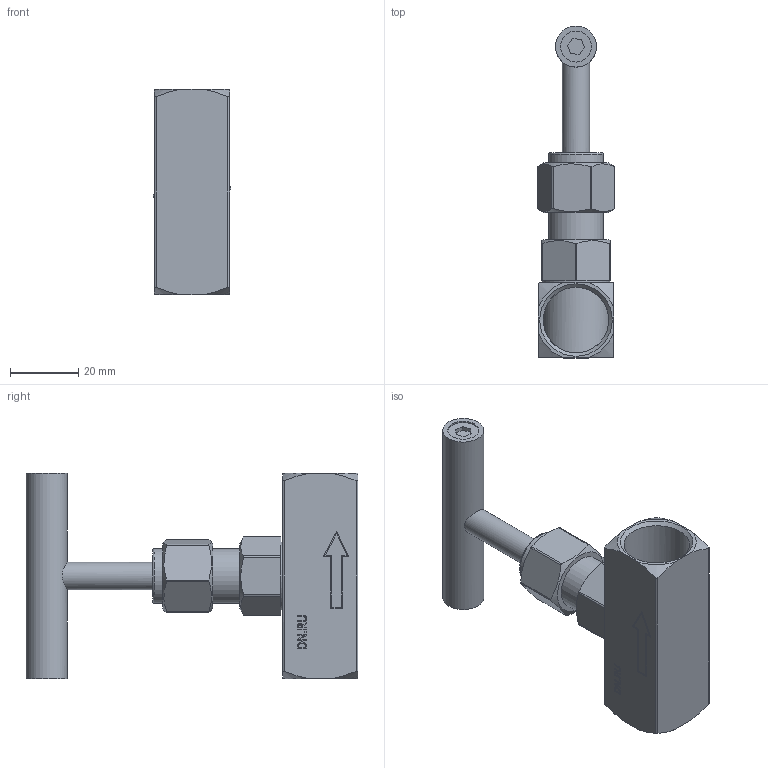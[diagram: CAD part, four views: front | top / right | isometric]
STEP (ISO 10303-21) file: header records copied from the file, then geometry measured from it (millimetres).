
FILE_DESCRIPTION(('STEP AP214'), '1');
FILE_NAME('VN3232M-T-Ht 孰囡囗 桡铍囹 DN.ru 捏15 畜400', '', ('UNSPECIFIED'), ('UNSPECIFIED'), 'C3D Converter', 'C3D Toolkit', '');
FILE_SCHEMA(('AUTOMOTIVE_DESIGN { 1 0 10303 214 3 1 1}'));
Length unit declared in the file: millimetre
Products named in the file (1): VN3232M-T-Ht
Bounding box: 22.77 x 97 x 60 mm (x, y, z)
Volume: 35964.3 mm3; surface area: 14713 mm2
Topology: 1 solids, 1 shells, 170 faces, 436 edges, 289 vertices
Faces by surface type: plane 106, cylinder 27, bspline 23, cone 13, torus 1
Full cylindrical faces by diameter (mm): 8 x1, 9.066 x2, 12 x1, 16 x2, 19.17 x2, 20 x1
Entity records: 12277 total; most frequent: CARTESIAN_POINT 7043, ORIENTED_EDGE 842, DIRECTION 644, EDGE_CURVE 421, VERTEX_POINT 289, LINE 264, VECTOR 264, EDGE_LOOP 206
